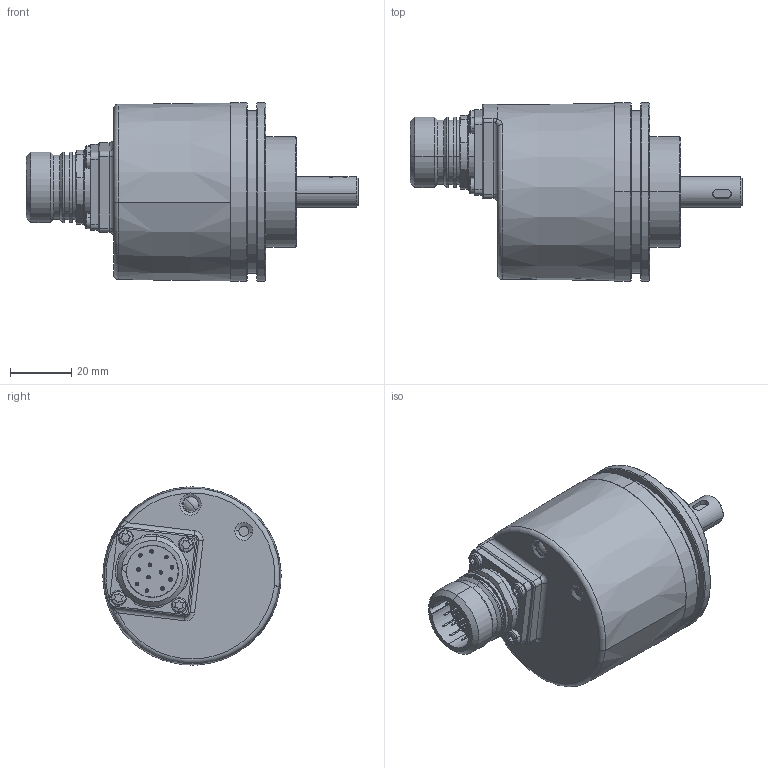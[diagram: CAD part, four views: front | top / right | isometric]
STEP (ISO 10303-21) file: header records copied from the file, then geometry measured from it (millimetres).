
FILE_DESCRIPTION (( 'STEP AP214' ), '1' );
FILE_NAME ('5863SIL.1AX3.XXXX.STEP', '2010-11-03T07:55:54', ( 'admin' ), ( 'Fritz Kübler GmbH' ), 'SwSTEP 2.0', 'SolidWorks 2009', '' );
FILE_SCHEMA (( 'AUTOMOTIVE_DESIGN' ));
Length unit declared in the file: millimetre
Products named in the file (1): 5863SIL.1AX3.XXXX
Bounding box: 108 x 58 x 58 mm (x, y, z)
Surface area: 24070.2 mm2 (no closed solid volume)
Topology: 0 solids, 29 shells, 328 faces, 857 edges, 542 vertices
Faces by surface type: cylinder 136, plane 86, cone 42, sphere 34, torus 26, bspline 4
Entity records: 14297 total; most frequent: CARTESIAN_POINT 2405, DIRECTION 1967, ORIENTED_EDGE 1510, EDGE_CURVE 833, AXIS2_PLACEMENT_3D 831, VERTEX_POINT 542, CIRCLE 506, EDGE_LOOP 376
